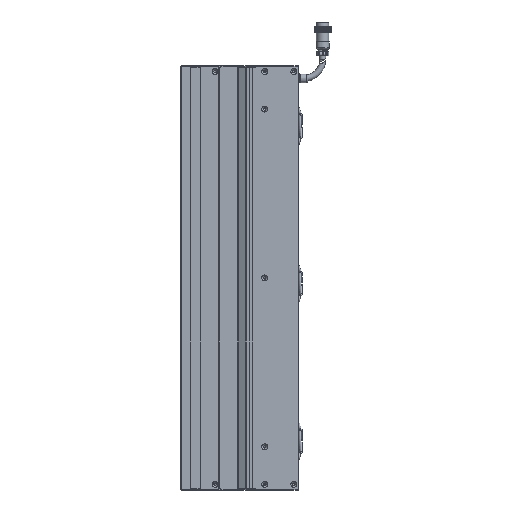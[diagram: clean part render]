
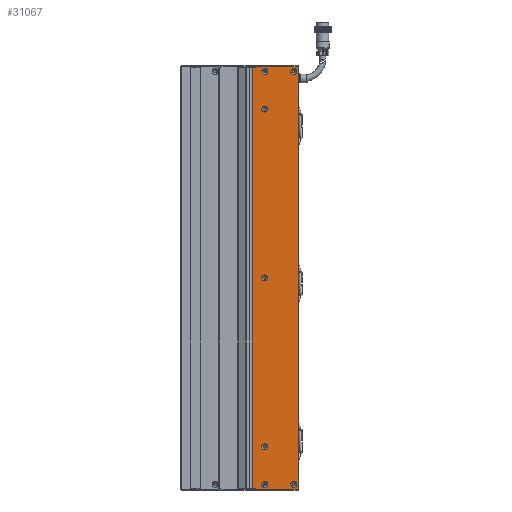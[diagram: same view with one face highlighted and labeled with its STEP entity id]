
A CAD part, left-side view. The second image highlights one B-rep face of the part: STEP entity #31067.
In plain terms, the highlighted planar face has unit normal (-1, 0, 0).
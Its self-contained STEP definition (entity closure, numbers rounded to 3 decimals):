
#406 = FACE_BOUND ( 'NONE', #75228, .T. ) ;
#3180 = DIRECTION ( 'NONE',  ( 0., 0., 1. ) ) ;
#3788 = DIRECTION ( 'NONE',  ( 0., 1., 0. ) ) ;
#3974 = ORIENTED_EDGE ( 'NONE', *, *, #66617, .T. ) ;
#4100 = VERTEX_POINT ( 'NONE', #53728 ) ;
#6832 = VERTEX_POINT ( 'NONE', #26862 ) ;
#7422 = VERTEX_POINT ( 'NONE', #17828 ) ;
#7905 = CARTESIAN_POINT ( 'NONE',  ( -24.998, -67.5, 220. ) ) ;
#8297 = DIRECTION ( 'NONE',  ( 0., 0., 1. ) ) ;
#9428 = CIRCLE ( 'NONE', #122132, 3.15 ) ;
#10198 = VERTEX_POINT ( 'NONE', #29554 ) ;
#10516 = CARTESIAN_POINT ( 'NONE',  ( -24.998, -72.5, 224. ) ) ;
#11082 = ORIENTED_EDGE ( 'NONE', *, *, #56958, .F. ) ;
#11136 = AXIS2_PLACEMENT_3D ( 'NONE', #10516, #19917, #124642 ) ;
#11632 = CARTESIAN_POINT ( 'NONE',  ( -24.998, -36.5, 0. ) ) ;
#11672 = EDGE_CURVE ( 'NONE', #54759, #6832, #36196, .T. ) ;
#11957 = CARTESIAN_POINT ( 'NONE',  ( -24.998, -67.5, 223.15 ) ) ;
#13649 = CARTESIAN_POINT ( 'NONE',  ( -24.998, -36.5, 180. ) ) ;
#14459 = AXIS2_PLACEMENT_3D ( 'NONE', #13649, #76121, #86875 ) ;
#16830 = EDGE_CURVE ( 'NONE', #70107, #70107, #21092, .T. ) ;
#17773 = CARTESIAN_POINT ( 'NONE',  ( -24.998, -26.5, 224. ) ) ;
#17828 = CARTESIAN_POINT ( 'NONE',  ( -24.998, -72., 225.5 ) ) ;
#19259 = EDGE_LOOP ( 'NONE', ( #45461, #64635, #11082, #108340, #3974, #59418, #39093, #57624 ) ) ;
#19917 = DIRECTION ( 'NONE',  ( 1., 0., 0. ) ) ;
#20178 = DIRECTION ( 'NONE',  ( 0., 0., 1. ) ) ;
#21092 = CIRCLE ( 'NONE', #125712, 3.15 ) ;
#23325 = DIRECTION ( 'NONE',  ( 0., 0., 1. ) ) ;
#23745 = CARTESIAN_POINT ( 'NONE',  ( -24.998, -36.5, -180. ) ) ;
#24432 = CIRCLE ( 'NONE', #86244, 3.15 ) ;
#24890 = LINE ( 'NONE', #104725, #116436 ) ;
#24949 = EDGE_CURVE ( 'NONE', #37093, #53675, #88674, .T. ) ;
#26665 = CARTESIAN_POINT ( 'NONE',  ( -24.998, -72.5, 224. ) ) ;
#26862 = CARTESIAN_POINT ( 'NONE',  ( -24.998, -26.5, -224. ) ) ;
#27092 = DIRECTION ( 'NONE',  ( 0., -1., 0. ) ) ;
#27174 = VECTOR ( 'NONE', #8297, 1000. ) ;
#27877 = DIRECTION ( 'NONE',  ( -1., 0., 0. ) ) ;
#29199 = AXIS2_PLACEMENT_3D ( 'NONE', #77318, #27877, #102406 ) ;
#29509 = ORIENTED_EDGE ( 'NONE', *, *, #16830, .F. ) ;
#29554 = CARTESIAN_POINT ( 'NONE',  ( -24.998, -26.5, -225.5 ) ) ;
#31067 = ADVANCED_FACE ( 'NONE', ( #406, #70989, #79137, #83806, #59597, #53205, #66082, #82236 ), #72920, .F. ) ;
#32186 = CARTESIAN_POINT ( 'NONE',  ( -24.998, -36.5, 183.15 ) ) ;
#34626 = VERTEX_POINT ( 'NONE', #32186 ) ;
#36196 = LINE ( 'NONE', #58714, #132521 ) ;
#37093 = VERTEX_POINT ( 'NONE', #75808 ) ;
#39093 = ORIENTED_EDGE ( 'NONE', *, *, #24949, .F. ) ;
#39557 = ORIENTED_EDGE ( 'NONE', *, *, #45496, .F. ) ;
#40131 = CARTESIAN_POINT ( 'NONE',  ( -24.998, -23.25, -224. ) ) ;
#42044 = CARTESIAN_POINT ( 'NONE',  ( -24.998, -67.5, -216.85 ) ) ;
#45461 = ORIENTED_EDGE ( 'NONE', *, *, #11672, .T. ) ;
#45496 = EDGE_CURVE ( 'NONE', #103811, #103811, #9428, .T. ) ;
#46311 = EDGE_CURVE ( 'NONE', #104555, #7422, #117059, .T. ) ;
#47889 = DIRECTION ( 'NONE',  ( -1., 0., 0. ) ) ;
#49124 = CARTESIAN_POINT ( 'NONE',  ( -24.998, -72., 224. ) ) ;
#49217 = EDGE_CURVE ( 'NONE', #126426, #126426, #76459, .T. ) ;
#49723 = EDGE_CURVE ( 'NONE', #80185, #53675, #24890, .T. ) ;
#53069 = CARTESIAN_POINT ( 'NONE',  ( -24.998, -72.5, 225.5 ) ) ;
#53205 = FACE_BOUND ( 'NONE', #116834, .T. ) ;
#53675 = VERTEX_POINT ( 'NONE', #17773 ) ;
#53728 = CARTESIAN_POINT ( 'NONE',  ( -24.998, -36.5, 3.15 ) ) ;
#54072 = CARTESIAN_POINT ( 'NONE',  ( -24.998, -72.5, -225.5 ) ) ;
#54327 = CARTESIAN_POINT ( 'NONE',  ( -24.998, -36.5, -220. ) ) ;
#54394 = CARTESIAN_POINT ( 'NONE',  ( -24.998, -36.5, 223.15 ) ) ;
#54759 = VERTEX_POINT ( 'NONE', #79983 ) ;
#56958 = EDGE_CURVE ( 'NONE', #104555, #10198, #96614, .T. ) ;
#57624 = ORIENTED_EDGE ( 'NONE', *, *, #99916, .F. ) ;
#58714 = CARTESIAN_POINT ( 'NONE',  ( -24.998, -72.5, -224. ) ) ;
#59418 = ORIENTED_EDGE ( 'NONE', *, *, #49723, .T. ) ;
#59597 = FACE_BOUND ( 'NONE', #94303, .T. ) ;
#60803 = EDGE_LOOP ( 'NONE', ( #64798 ) ) ;
#62761 = EDGE_LOOP ( 'NONE', ( #68178 ) ) ;
#64635 = ORIENTED_EDGE ( 'NONE', *, *, #111094, .F. ) ;
#64798 = ORIENTED_EDGE ( 'NONE', *, *, #49217, .F. ) ;
#65027 = DIRECTION ( 'NONE',  ( -1., 0., 0. ) ) ;
#65417 = CIRCLE ( 'NONE', #96988, 3.15 ) ;
#66082 = FACE_BOUND ( 'NONE', #120258, .T. ) ;
#66617 = EDGE_CURVE ( 'NONE', #7422, #80185, #83798, .T. ) ;
#68178 = ORIENTED_EDGE ( 'NONE', *, *, #101946, .F. ) ;
#68266 = CARTESIAN_POINT ( 'NONE',  ( -24.998, -72., -225.5 ) ) ;
#68282 = ORIENTED_EDGE ( 'NONE', *, *, #105363, .F. ) ;
#69201 = VECTOR ( 'NONE', #3788, 1000. ) ;
#70107 = VERTEX_POINT ( 'NONE', #104757 ) ;
#70989 = FACE_BOUND ( 'NONE', #115099, .T. ) ;
#72920 = PLANE ( 'NONE',  #11136 ) ;
#74604 = DIRECTION ( 'NONE',  ( 0., 0., 1. ) ) ;
#75228 = EDGE_LOOP ( 'NONE', ( #110476 ) ) ;
#75808 = CARTESIAN_POINT ( 'NONE',  ( -24.998, -23.25, 224. ) ) ;
#76121 = DIRECTION ( 'NONE',  ( -1., 0., 0. ) ) ;
#76459 = CIRCLE ( 'NONE', #29199, 3.15 ) ;
#77318 = CARTESIAN_POINT ( 'NONE',  ( -24.998, -36.5, 220. ) ) ;
#79137 = FACE_BOUND ( 'NONE', #62761, .T. ) ;
#79769 = DIRECTION ( 'NONE',  ( 0., 0., 1. ) ) ;
#79983 = CARTESIAN_POINT ( 'NONE',  ( -24.998, -23.25, -224. ) ) ;
#80185 = VERTEX_POINT ( 'NONE', #130256 ) ;
#81834 = LINE ( 'NONE', #40131, #27174 ) ;
#82236 = FACE_OUTER_BOUND ( 'NONE', #19259, .T. ) ;
#83798 = LINE ( 'NONE', #53069, #117724 ) ;
#83806 = FACE_BOUND ( 'NONE', #60803, .T. ) ;
#84066 = DIRECTION ( 'NONE',  ( -1., 0., 0. ) ) ;
#85430 = DIRECTION ( 'NONE',  ( 0., 1., 0. ) ) ;
#85455 = CARTESIAN_POINT ( 'NONE',  ( -24.998, -26.5, -217. ) ) ;
#86244 = AXIS2_PLACEMENT_3D ( 'NONE', #11632, #123574, #20178 ) ;
#86875 = DIRECTION ( 'NONE',  ( 0., 0., 1. ) ) ;
#88674 = LINE ( 'NONE', #26665, #106294 ) ;
#94303 = EDGE_LOOP ( 'NONE', ( #39557 ) ) ;
#94849 = CARTESIAN_POINT ( 'NONE',  ( -24.998, -67.5, -220. ) ) ;
#95294 = DIRECTION ( 'NONE',  ( 0., 0., -1. ) ) ;
#95745 = VERTEX_POINT ( 'NONE', #42044 ) ;
#96203 = CARTESIAN_POINT ( 'NONE',  ( -24.998, -36.5, -176.85 ) ) ;
#96614 = LINE ( 'NONE', #54072, #69201 ) ;
#96988 = AXIS2_PLACEMENT_3D ( 'NONE', #7905, #47889, #79769 ) ;
#99916 = EDGE_CURVE ( 'NONE', #54759, #37093, #81834, .T. ) ;
#101476 = LINE ( 'NONE', #85455, #119161 ) ;
#101946 = EDGE_CURVE ( 'NONE', #119865, #119865, #65417, .T. ) ;
#102406 = DIRECTION ( 'NONE',  ( 0., 0., 1. ) ) ;
#103811 = VERTEX_POINT ( 'NONE', #96203 ) ;
#104487 = ORIENTED_EDGE ( 'NONE', *, *, #124371, .F. ) ;
#104555 = VERTEX_POINT ( 'NONE', #68266 ) ;
#104725 = CARTESIAN_POINT ( 'NONE',  ( -24.998, -26.5, 217. ) ) ;
#104757 = CARTESIAN_POINT ( 'NONE',  ( -24.998, -36.5, -216.85 ) ) ;
#105363 = EDGE_CURVE ( 'NONE', #34626, #34626, #119659, .T. ) ;
#106294 = VECTOR ( 'NONE', #27092, 1000. ) ;
#107322 = DIRECTION ( 'NONE',  ( -1., 0., 0. ) ) ;
#108340 = ORIENTED_EDGE ( 'NONE', *, *, #46311, .T. ) ;
#110476 = ORIENTED_EDGE ( 'NONE', *, *, #114499, .F. ) ;
#110513 = AXIS2_PLACEMENT_3D ( 'NONE', #94849, #84066, #74604 ) ;
#111094 = EDGE_CURVE ( 'NONE', #10198, #6832, #101476, .T. ) ;
#114499 = EDGE_CURVE ( 'NONE', #95745, #95745, #126939, .T. ) ;
#115099 = EDGE_LOOP ( 'NONE', ( #29509 ) ) ;
#116436 = VECTOR ( 'NONE', #95294, 1000. ) ;
#116834 = EDGE_LOOP ( 'NONE', ( #104487 ) ) ;
#116874 = DIRECTION ( 'NONE',  ( 0., 0., 1. ) ) ;
#117059 = LINE ( 'NONE', #49124, #121828 ) ;
#117724 = VECTOR ( 'NONE', #85430, 1000. ) ;
#119161 = VECTOR ( 'NONE', #116874, 1000. ) ;
#119659 = CIRCLE ( 'NONE', #14459, 3.15 ) ;
#119865 = VERTEX_POINT ( 'NONE', #11957 ) ;
#120258 = EDGE_LOOP ( 'NONE', ( #68282 ) ) ;
#121828 = VECTOR ( 'NONE', #130928, 1000. ) ;
#122132 = AXIS2_PLACEMENT_3D ( 'NONE', #23745, #65027, #23325 ) ;
#122544 = DIRECTION ( 'NONE',  ( 0., -1., 0. ) ) ;
#123574 = DIRECTION ( 'NONE',  ( -1., 0., 0. ) ) ;
#124371 = EDGE_CURVE ( 'NONE', #4100, #4100, #24432, .T. ) ;
#124642 = DIRECTION ( 'NONE',  ( 0., 0., -1. ) ) ;
#125712 = AXIS2_PLACEMENT_3D ( 'NONE', #54327, #107322, #3180 ) ;
#126426 = VERTEX_POINT ( 'NONE', #54394 ) ;
#126939 = CIRCLE ( 'NONE', #110513, 3.15 ) ;
#130256 = CARTESIAN_POINT ( 'NONE',  ( -24.998, -26.5, 225.5 ) ) ;
#130928 = DIRECTION ( 'NONE',  ( 0., 0., 1. ) ) ;
#132521 = VECTOR ( 'NONE', #122544, 1000. ) ;
